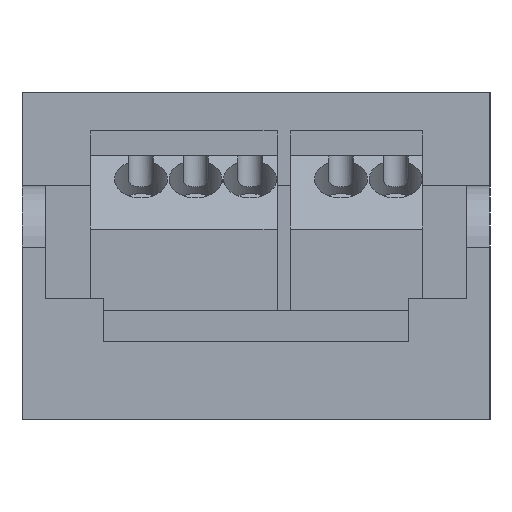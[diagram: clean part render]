
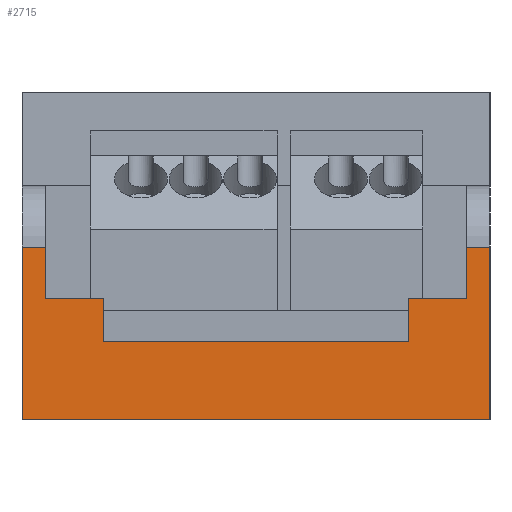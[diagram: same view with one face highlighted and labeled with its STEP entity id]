
A CAD part, left-side view. The second image highlights one B-rep face of the part: STEP entity #2715.
In plain terms, the highlighted planar face has unit normal (-1, 0, 0.018).
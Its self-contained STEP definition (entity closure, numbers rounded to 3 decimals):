
#31=DIRECTION('',(0.017,0.,1.));
#32=VECTOR('',#31,11.071);
#33=CARTESIAN_POINT('',(-5.5,-15.,0.));
#34=LINE('',#33,#32);
#473=DIRECTION('',(0.017,0.,1.));
#474=VECTOR('',#473,2.8);
#475=CARTESIAN_POINT('',(-5.413,9.75,5.));
#476=LINE('',#475,#474);
#477=DIRECTION('',(0.,1.,0.));
#478=VECTOR('',#477,19.5);
#479=CARTESIAN_POINT('',(-5.413,-9.75,5.));
#480=LINE('',#479,#478);
#481=DIRECTION('',(0.017,0.,1.));
#482=VECTOR('',#481,2.8);
#483=CARTESIAN_POINT('',(-5.413,-9.75,5.));
#484=LINE('',#483,#482);
#485=DIRECTION('',(0.,1.,0.));
#486=VECTOR('',#485,3.75);
#487=CARTESIAN_POINT('',(-5.364,-13.5,7.8));
#488=LINE('',#487,#486);
#489=DIRECTION('',(-0.017,0.,-1.));
#490=VECTOR('',#489,3.27);
#491=CARTESIAN_POINT('',(-5.307,-13.5,11.07));
#492=LINE('',#491,#490);
#493=DIRECTION('',(0.,1.,0.));
#494=VECTOR('',#493,1.5);
#495=CARTESIAN_POINT('',(-5.307,-15.,11.07));
#496=LINE('',#495,#494);
#497=DIRECTION('',(0.,1.,0.));
#498=VECTOR('',#497,30.);
#499=CARTESIAN_POINT('',(-5.5,-15.,0.));
#500=LINE('',#499,#498);
#501=DIRECTION('',(0.,1.,0.));
#502=VECTOR('',#501,1.5);
#503=CARTESIAN_POINT('',(-5.307,13.5,11.07));
#504=LINE('',#503,#502);
#505=DIRECTION('',(-0.017,0.,-1.));
#506=VECTOR('',#505,3.27);
#507=CARTESIAN_POINT('',(-5.307,13.5,11.07));
#508=LINE('',#507,#506);
#509=DIRECTION('',(0.,1.,0.));
#510=VECTOR('',#509,3.75);
#511=CARTESIAN_POINT('',(-5.364,9.75,7.8));
#512=LINE('',#511,#510);
#690=DIRECTION('',(0.017,0.,1.));
#691=VECTOR('',#690,11.071);
#692=CARTESIAN_POINT('',(-5.5,15.,0.));
#693=LINE('',#692,#691);
#1605=CARTESIAN_POINT('',(-5.5,-15.,0.));
#1607=VERTEX_POINT('',#1605);
#1609=CARTESIAN_POINT('',(-5.5,15.,0.));
#1611=VERTEX_POINT('',#1609);
#1612=CARTESIAN_POINT('',(-5.307,-15.,11.07));
#1614=VERTEX_POINT('',#1612);
#1628=CARTESIAN_POINT('',(-5.307,15.,11.07));
#1630=VERTEX_POINT('',#1628);
#1660=CARTESIAN_POINT('',(-5.307,13.5,11.07));
#1661=CARTESIAN_POINT('',(-5.364,13.5,7.8));
#1662=VERTEX_POINT('',#1660);
#1663=VERTEX_POINT('',#1661);
#1664=CARTESIAN_POINT('',(-5.307,-13.5,11.07));
#1665=CARTESIAN_POINT('',(-5.364,-13.5,7.8));
#1666=VERTEX_POINT('',#1664);
#1667=VERTEX_POINT('',#1665);
#1990=CARTESIAN_POINT('',(-5.413,9.75,5.));
#1991=CARTESIAN_POINT('',(-5.364,9.75,7.8));
#1992=VERTEX_POINT('',#1990);
#1993=VERTEX_POINT('',#1991);
#1994=CARTESIAN_POINT('',(-5.413,-9.75,5.));
#1995=CARTESIAN_POINT('',(-5.364,-9.75,7.8));
#1996=VERTEX_POINT('',#1994);
#1997=VERTEX_POINT('',#1995);
#2689=CARTESIAN_POINT('',(-5.5,-15.,0.));
#2690=DIRECTION('',(-1.,0.,0.017));
#2691=DIRECTION('',(0.017,0.,1.));
#2692=AXIS2_PLACEMENT_3D('',#2689,#2690,#2691);
#2693=PLANE('',#2692);
#2694=ORIENTED_EDGE('',*,*,#2665,.F.);
#2695=ORIENTED_EDGE('',*,*,#2207,.F.);
#2697=ORIENTED_EDGE('',*,*,#2696,.T.);
#2699=ORIENTED_EDGE('',*,*,#2698,.F.);
#2701=ORIENTED_EDGE('',*,*,#2700,.F.);
#2703=ORIENTED_EDGE('',*,*,#2702,.F.);
#2704=ORIENTED_EDGE('',*,*,#2115,.F.);
#2705=ORIENTED_EDGE('',*,*,#2259,.T.);
#2707=ORIENTED_EDGE('',*,*,#2706,.T.);
#2709=ORIENTED_EDGE('',*,*,#2708,.F.);
#2710=ORIENTED_EDGE('',*,*,#2172,.T.);
#2712=ORIENTED_EDGE('',*,*,#2711,.F.);
#2713=EDGE_LOOP('',(#2694,#2695,#2697,#2699,#2701,#2703,#2704,#2705,#2707,#2709,
#2710,#2712));
#2714=FACE_OUTER_BOUND('',#2713,.F.);
#2715=ADVANCED_FACE('',(#2714),#2693,.T.);
#2115=EDGE_CURVE('',#1607,#1614,#34,.T.);
#2172=EDGE_CURVE('',#1662,#1663,#508,.T.);
#2207=EDGE_CURVE('',#1996,#1992,#480,.T.);
#2259=EDGE_CURVE('',#1607,#1611,#500,.T.);
#2665=EDGE_CURVE('',#1992,#1993,#476,.T.);
#2696=EDGE_CURVE('',#1996,#1997,#484,.T.);
#2698=EDGE_CURVE('',#1667,#1997,#488,.T.);
#2700=EDGE_CURVE('',#1666,#1667,#492,.T.);
#2702=EDGE_CURVE('',#1614,#1666,#496,.T.);
#2706=EDGE_CURVE('',#1611,#1630,#693,.T.);
#2708=EDGE_CURVE('',#1662,#1630,#504,.T.);
#2711=EDGE_CURVE('',#1993,#1663,#512,.T.);
